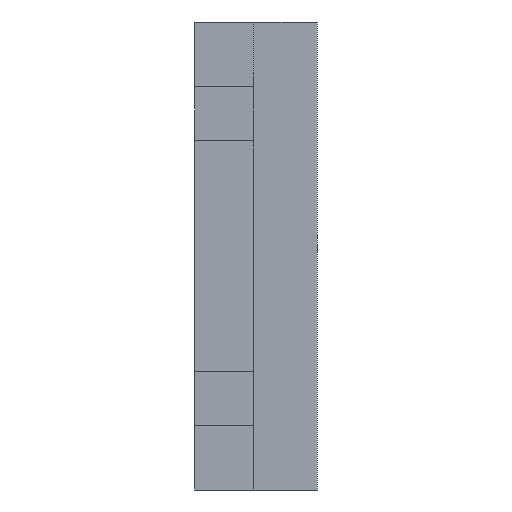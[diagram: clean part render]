
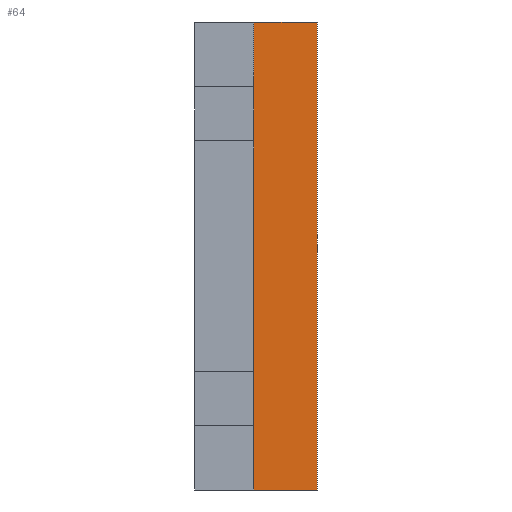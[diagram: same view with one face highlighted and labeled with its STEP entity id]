
A CAD part, front view. The second image highlights one B-rep face of the part: STEP entity #64.
In plain terms, the highlighted planar face has unit normal (0, -1, 0).
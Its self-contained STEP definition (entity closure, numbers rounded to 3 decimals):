
#64=ADVANCED_FACE('',(#96),#1156,.T.);
#96=FACE_OUTER_BOUND('',#134,.T.);
#134=EDGE_LOOP('',(#263,#264,#265,#266));
#263=ORIENTED_EDGE('',*,*,#849,.T.);
#264=ORIENTED_EDGE('',*,*,#836,.F.);
#265=ORIENTED_EDGE('',*,*,#850,.T.);
#266=ORIENTED_EDGE('',*,*,#827,.F.);
#449=PCURVE('',#1151,#617);
#458=PCURVE('',#1152,#626);
#479=PCURVE('',#1156,#647);
#480=PCURVE('',#1156,#648);
#481=PCURVE('',#1156,#649);
#482=PCURVE('',#1156,#650);
#483=PCURVE('',#1157,#651);
#498=PCURVE('',#1158,#666);
#617=DEFINITIONAL_REPRESENTATION('',(#974),#2126);
#626=DEFINITIONAL_REPRESENTATION('',(#992),#2126);
#647=DEFINITIONAL_REPRESENTATION('',(#1018),#2126);
#648=DEFINITIONAL_REPRESENTATION('',(#1019),#2126);
#649=DEFINITIONAL_REPRESENTATION('',(#1021),#2126);
#650=DEFINITIONAL_REPRESENTATION('',(#1022),#2126);
#651=DEFINITIONAL_REPRESENTATION('',(#1023),#2126);
#666=DEFINITIONAL_REPRESENTATION('',(#1038),#2126);
#743=SURFACE_CURVE('',#973,(#449,#482),.PCURVE_S1.);
#752=SURFACE_CURVE('',#991,(#458,#480),.PCURVE_S1.);
#765=SURFACE_CURVE('',#1017,(#479,#498),.PCURVE_S1.);
#766=SURFACE_CURVE('',#1020,(#481,#483),.PCURVE_S1.);
#827=EDGE_CURVE('',#1101,#1102,#743,.T.);
#836=EDGE_CURVE('',#1106,#1105,#752,.T.);
#849=EDGE_CURVE('',#1101,#1105,#765,.T.);
#850=EDGE_CURVE('',#1106,#1102,#766,.T.);
#973=B_SPLINE_CURVE_WITH_KNOTS('',1,(#1779,#1780),.UNSPECIFIED.,.F.,.F.,
(2,2),(-46.4,-43.3),.UNSPECIFIED.);
#974=B_SPLINE_CURVE_WITH_KNOTS('',1,(#1781,#1782),.UNSPECIFIED.,.F.,.F.,
(2,2),(-46.4,-43.3),.UNSPECIFIED.);
#991=B_SPLINE_CURVE_WITH_KNOTS('',1,(#1815,#1816),.UNSPECIFIED.,.F.,.F.,
(2,2),(43.3,46.4),.UNSPECIFIED.);
#992=B_SPLINE_CURVE_WITH_KNOTS('',1,(#1817,#1818),.UNSPECIFIED.,.F.,.F.,
(2,2),(43.3,46.4),.UNSPECIFIED.);
#1017=B_SPLINE_CURVE_WITH_KNOTS('',1,(#1921,#1922),.UNSPECIFIED.,.F.,.F.,
(2,2),(0.,23.),.UNSPECIFIED.);
#1018=B_SPLINE_CURVE_WITH_KNOTS('',1,(#1923,#1924),.UNSPECIFIED.,.F.,.F.,
(2,2),(0.,23.),.UNSPECIFIED.);
#1019=B_SPLINE_CURVE_WITH_KNOTS('',1,(#1925,#1926),.UNSPECIFIED.,.F.,.F.,
(2,2),(43.3,46.4),.UNSPECIFIED.);
#1020=B_SPLINE_CURVE_WITH_KNOTS('',1,(#1927,#1928),.UNSPECIFIED.,.F.,.F.,
(2,2),(-23.,0.),.UNSPECIFIED.);
#1021=B_SPLINE_CURVE_WITH_KNOTS('',1,(#1929,#1930),.UNSPECIFIED.,.F.,.F.,
(2,2),(-23.,0.),.UNSPECIFIED.);
#1022=B_SPLINE_CURVE_WITH_KNOTS('',1,(#1931,#1932),.UNSPECIFIED.,.F.,.F.,
(2,2),(-46.4,-43.3),.UNSPECIFIED.);
#1023=B_SPLINE_CURVE_WITH_KNOTS('',1,(#1933,#1934),.UNSPECIFIED.,.F.,.F.,
(2,2),(-23.,0.),.UNSPECIFIED.);
#1038=B_SPLINE_CURVE_WITH_KNOTS('',1,(#2043,#2044),.UNSPECIFIED.,.F.,.F.,
(2,2),(0.,23.),.UNSPECIFIED.);
#1101=VERTEX_POINT('',#1745);
#1102=VERTEX_POINT('',#1746);
#1105=VERTEX_POINT('',#1749);
#1106=VERTEX_POINT('',#1750);
#1151=PLANE('',#1187);
#1152=PLANE('',#1188);
#1156=PLANE('',#1192);
#1157=PLANE('',#1193);
#1158=PLANE('',#1194);
#1187=AXIS2_PLACEMENT_3D('',#1671,#1206,$);
#1188=AXIS2_PLACEMENT_3D('',#1672,#1207,$);
#1192=AXIS2_PLACEMENT_3D('',#1676,#1211,$);
#1193=AXIS2_PLACEMENT_3D('',#1677,#1212,$);
#1194=AXIS2_PLACEMENT_3D('',#1678,#1213,$);
#1206=DIRECTION('',(0.,0.,-1.));
#1207=DIRECTION('',(0.,0.,1.));
#1211=DIRECTION('',(0.,-1.,0.));
#1212=DIRECTION('',(1.,0.,0.));
#1213=DIRECTION('',(1.,0.,0.));
#1671=CARTESIAN_POINT('',(753.96,-482.31,-10.5));
#1672=CARTESIAN_POINT('',(753.96,-482.31,12.5));
#1676=CARTESIAN_POINT('',(753.9,-475.77,-10.5));
#1677=CARTESIAN_POINT('',(750.8,-475.77,-10.5));
#1678=CARTESIAN_POINT('',(753.9,-482.17,-10.5));
#1745=CARTESIAN_POINT('',(753.9,-475.77,-10.5));
#1746=CARTESIAN_POINT('',(750.8,-475.77,-10.5));
#1749=CARTESIAN_POINT('',(753.9,-475.77,12.5));
#1750=CARTESIAN_POINT('',(750.8,-475.77,12.5));
#1779=CARTESIAN_POINT('',(753.9,-475.77,-10.5));
#1780=CARTESIAN_POINT('',(750.8,-475.77,-10.5));
#1781=CARTESIAN_POINT('',(-6.,-7.6));
#1782=CARTESIAN_POINT('',(-2.9,-7.6));
#1815=CARTESIAN_POINT('',(750.8,-475.77,12.5));
#1816=CARTESIAN_POINT('',(753.9,-475.77,12.5));
#1817=CARTESIAN_POINT('',(0.,3.1));
#1818=CARTESIAN_POINT('',(0.,0.));
#1921=CARTESIAN_POINT('',(753.9,-475.77,-10.5));
#1922=CARTESIAN_POINT('',(753.9,-475.77,12.5));
#1923=CARTESIAN_POINT('',(0.,6.4));
#1924=CARTESIAN_POINT('',(23.,6.4));
#1925=CARTESIAN_POINT('',(23.,9.5));
#1926=CARTESIAN_POINT('',(23.,6.4));
#1927=CARTESIAN_POINT('',(750.8,-475.77,12.5));
#1928=CARTESIAN_POINT('',(750.8,-475.77,-10.5));
#1929=CARTESIAN_POINT('',(23.,9.5));
#1930=CARTESIAN_POINT('',(0.,9.5));
#1931=CARTESIAN_POINT('',(0.,6.4));
#1932=CARTESIAN_POINT('',(0.,9.5));
#1933=CARTESIAN_POINT('',(23.,9.5));
#1934=CARTESIAN_POINT('',(0.,9.5));
#2043=CARTESIAN_POINT('',(6.4,0.));
#2044=CARTESIAN_POINT('',(6.4,23.));
#2126=(
GEOMETRIC_REPRESENTATION_CONTEXT(2)
PARAMETRIC_REPRESENTATION_CONTEXT()
REPRESENTATION_CONTEXT('pspace','')
);
